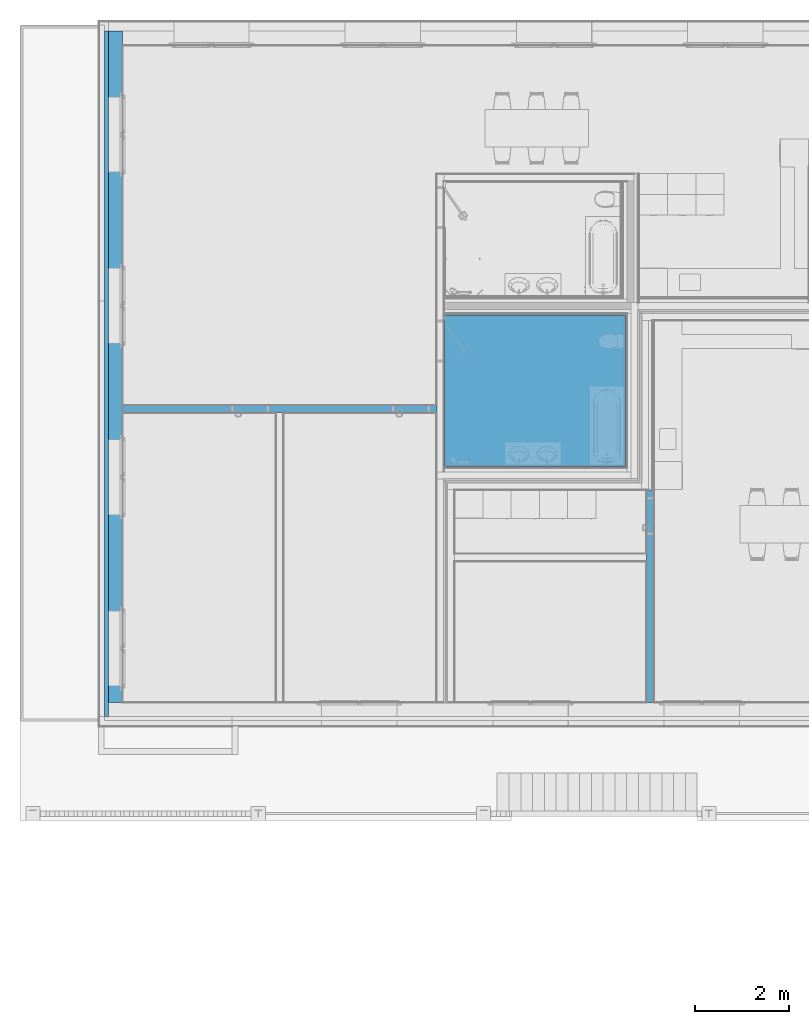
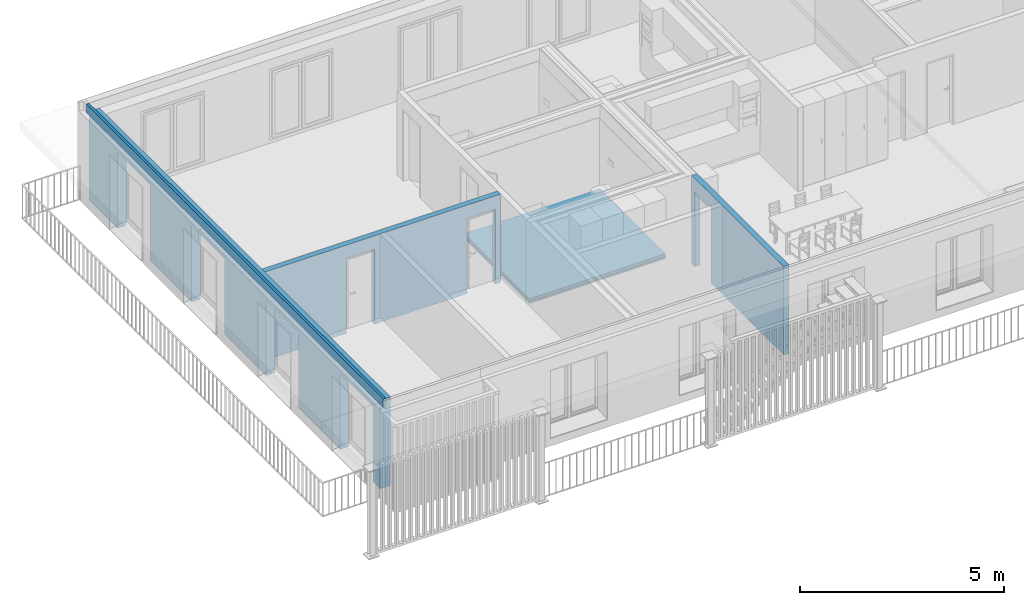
# One storey, part 7 of 34: 7 building element parts, 1 discrete accessory, 7 openings, 4 elements without a shape of their own.
"""IFC4 building model written with IfcOpenShell, lengths in millimetres."""

from ifc_helpers import new_model, entity, si_unit, converted_unit, derived_unit, direction, frame, origin_with_axes, place, context, subcontext, project, spatial, polygons, material, type_object, element, aggregate, save


model = new_model("IFC4")

# Units and contexts
model_context = context("Model", 3, precision=0.01, world=origin_with_axes(), true_north=direction((0.0, 1.0)))
body_context = subcontext(model_context, "Body", "Model", "MODEL_VIEW")
ifc_project = project(units=[si_unit("LENGTHUNIT", "METRE", prefix="MILLI"), si_unit("AREAUNIT", "SQUARE_METRE"), si_unit("VOLUMEUNIT", "CUBIC_METRE"), converted_unit("PLANEANGLEUNIT", "DEGREE", entity("IfcPlaneAngleMeasure", 0.0174532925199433), si_unit("PLANEANGLEUNIT", "RADIAN"), dimensions=[0, 0, 0, 0, 0, 0, 0]), converted_unit("TIMEUNIT", "Year", entity("IfcTimeMeasure", 31557600.0), si_unit("TIMEUNIT", "SECOND"), dimensions=[0, 0, 1, 0, 0, 0, 0]), si_unit("MASSUNIT", "GRAM", prefix="KILO"), si_unit("THERMODYNAMICTEMPERATUREUNIT", "DEGREE_CELSIUS"), si_unit("LUMINOUSINTENSITYUNIT", "LUMEN"), si_unit("ENERGYUNIT", "JOULE", prefix="MEGA"), derived_unit("THERMALCONDUCTANCEUNIT", [(si_unit("POWERUNIT", "WATT"), 1), (si_unit("LENGTHUNIT", "METRE"), -1), (si_unit("THERMODYNAMICTEMPERATUREUNIT", "KELVIN"), -1)]), derived_unit("SPECIFICHEATCAPACITYUNIT", [(si_unit("ENERGYUNIT", "JOULE"), 1), (si_unit("MASSUNIT", "GRAM", prefix="KILO"), -1), (si_unit("THERMODYNAMICTEMPERATUREUNIT", "KELVIN"), -1)]), derived_unit("MASSDENSITYUNIT", [(si_unit("MASSUNIT", "GRAM", prefix="KILO"), 1), (si_unit("VOLUMEUNIT", "CUBIC_METRE"), -1)])], contexts=[model_context])

# Site, building, storey
site_placement = place(None, origin_with_axes())
site = spatial("IfcSite", under=ifc_project, at=site_placement, Name="Gelände", CompositionType="ELEMENT")
building_placement = place(site_placement, origin_with_axes())
building = spatial("IfcBuilding", under=site, at=building_placement, Name="Gebäude", CompositionType="ELEMENT")
storey_placement = place(building_placement, frame((0.0, 0.0, 2900.0), z_axis=(0.0, 0.0, 1.0), x_axis=(1.0, 0.0, 0.0)))
storey = spatial("IfcBuildingStorey", under=building, at=storey_placement, Name="1.OG", CompositionType="ELEMENT", Elevation=2900.0)

# Discrete accessory
ifc_material_1 = material(Name="Bewehrung")
discrete_accessory_type = type_object("IfcDiscreteAccessoryType", Name="Bewehrung 80 x 250", PredefinedType="NOTDEFINED")
discrete_accessory_placement = place(storey_placement, frame((-6861.004181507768, 37737.5972813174, 2649.999948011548), z_axis=(0.0, 0.0, 1.0), x_axis=(-1.0, 0.0, 0.0)))
element("IfcDiscreteAccessory", 1, at=discrete_accessory_placement, inside=storey, type_object=discrete_accessory_type, material=ifc_material_1, Name="Unterzug-028", PredefinedType="NOTDEFINED", context=body_context, shape_type="Tessellation", body=[
    polygons([(0.0, 14580.00054054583, 0.0), (80.00000000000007, 14580.00054054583, 0.0), (80.00000000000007, 0.0, 0.0), (0.0, 0.0, 0.0), (0.0, 14580.00054054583, 250.0), (80.00000000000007, 14580.00054054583, 250.0), (80.00000000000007, 0.0, 250.0), (0.0, 0.0, 250.0)], [[[1, 2, 3, 4]], [[1, 5, 6, 2]], [[2, 6, 7, 3]], [[4, 3, 7, 8]], [[5, 1, 4, 8]], [[6, 5, 8, 7]]], closed=True),
])

# Wall, opening, building element part
wall_type_1 = type_object("IfcWallType", Name="Innenwand Typ 05 170", PredefinedType="NOTDEFINED")
wall_1_placement = place(storey_placement, frame((4740.995818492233, 27974.37338563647, 0.0), z_axis=(0.0, 0.0, 1.0), x_axis=(0.0, -1.0, 0.0)))
wall_1 = element("IfcWall", 2, at=wall_1_placement, inside=storey, type_object=wall_type_1, Name="Wand-014", PredefinedType="NOTDEFINED")
opening_1_placement = place(wall_1_placement, frame((550.0000000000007, 0.0, 149.9999999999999), z_axis=(0.0, 0.0, 1.0), x_axis=(1.0, 0.0, 0.0)))
element("IfcOpeningElement", 3, at=opening_1_placement, cuts=wall_1, Name="Tür-011", context=body_context, identifier="Reference", shape_type="Tessellation", body=[
    polygons([(-399.9999999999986, -171.0000000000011, 2100.0), (-399.9999999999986, -171.0000000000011, -149.9999999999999), (399.9999999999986, -171.0000000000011, -149.9999999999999), (399.9999999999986, -171.0000000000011, 2100.0), (-399.9999999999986, 1.000000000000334, 2100.0), (-399.9999999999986, 1.000000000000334, -149.9999999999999), (399.9999999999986, 1.000000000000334, -149.9999999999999), (399.9999999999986, 1.000000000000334, 2100.0)], [[[1, 2, 3, 4]], [[5, 6, 2, 1]], [[6, 7, 3, 2]], [[7, 8, 4, 3]], [[8, 5, 1, 4]], [[7, 6, 5, 8]]], closed=True),
])
ifc_material_2 = material(Name="MW, Backstein")
building_element_part_1_placement = place(wall_1_placement, origin_with_axes())
building_element_part_1 = element("IfcBuildingElementPart", 4, at=building_element_part_1_placement, material=ifc_material_2, Name="MW, Backstein", PredefinedType="NOTDEFINED", context=body_context, shape_type="Tessellation", body=[
    polygons([(949.9999999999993, -10.00000000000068, 149.9999999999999), (949.9999999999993, -9.999999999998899, 2250.0), (150.0000000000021, -9.999999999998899, 2250.0), (150.0000000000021, -9.999999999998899, 149.9999999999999), (150.0000000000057, -9.999999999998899, 0.0), (0.0, -9.999999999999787, 0.0), (0.0, -9.999999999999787, 2649.999948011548), (4516.776644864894, -9.999999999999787, 2649.999948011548), (4516.776644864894, -9.999999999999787, 0.0), (949.9999999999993, -10.00000000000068, 0.0), (949.9999999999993, -159.9999999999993, 149.9999999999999), (949.9999999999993, -160.0000000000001, 2250.0), (150.0000000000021, -160.0000000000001, 2250.0), (150.0000000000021, -159.9999999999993, 149.9999999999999), (150.0000000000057, -160.0000000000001, 0.0), (0.0, -160.0000000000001, 0.0), (0.0, -160.0000000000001, 2649.999948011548), (4516.776644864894, -159.9999999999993, 2649.999948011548), (4516.776644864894, -160.0000000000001, 0.0), (949.9999999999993, -160.000000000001, 0.0)], [[[1, 2, 3, 4, 5, 6, 7, 8, 9, 10]], [[2, 1, 11, 12]], [[3, 2, 12, 13]], [[4, 3, 13, 14]], [[4, 14, 15, 5]], [[15, 16, 6, 5]], [[17, 7, 6, 16]], [[8, 7, 17, 18]], [[18, 19, 9, 8]], [[10, 9, 19, 20]], [[11, 1, 10, 20]], [[12, 11, 20, 19, 18, 17, 16, 15, 14, 13]]], closed=True),
])
aggregate(wall_1, [building_element_part_1])

# Covering, building element parts
covering_type = type_object("IfcCoveringType", Name="Bodenaufbau Typ 02 150", PredefinedType="NOTDEFINED")
covering_placement = place(storey_placement, frame((282.9958184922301, 28479.37338563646, 0.0), z_axis=(0.0, 0.0, 1.0), x_axis=(1.0, 0.0, 0.0)))
covering = element("IfcCovering", 5, at=covering_placement, inside=storey, type_object=covering_type, Name="Decke-008", PredefinedType="NOTDEFINED")
ifc_material_3 = material(Name="Keramik")
building_element_part_2_placement = place(covering_placement, origin_with_axes())
building_element_part_2 = element("IfcBuildingElementPart", 6, at=building_element_part_2_placement, material=ifc_material_3, Name="Keramik", PredefinedType="NOTDEFINED", context=body_context, shape_type="Tessellation", body=[
    polygons([(3848.000000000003, 0.0, 134.9999999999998), (3848.000000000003, 0.0, 149.9999999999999), (0.0, 0.0, 149.9999999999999), (0.0, 0.0, 134.9999999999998), (3848.000000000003, 3218.223889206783, 134.9999999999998), (3848.000000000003, 3218.223889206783, 149.9999999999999), (0.0, 3218.223889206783, 149.9999999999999), (0.0, 3218.223889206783, 134.9999999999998)], [[[1, 2, 3, 4]], [[5, 6, 2, 1]], [[3, 2, 6, 7]], [[4, 3, 7, 8]], [[4, 8, 5, 1]], [[8, 7, 6, 5]]], closed=True),
])
ifc_material_4 = material(Name="Unterlagsboden")
building_element_part_3_placement = place(covering_placement, origin_with_axes())
building_element_part_3 = element("IfcBuildingElementPart", 7, at=building_element_part_3_placement, material=ifc_material_4, Name="Unterlagsboden", PredefinedType="NOTDEFINED", context=body_context, shape_type="Tessellation", body=[
    polygons([(3848.000000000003, 0.0, 79.99999999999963), (3848.000000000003, 0.0, 134.9999999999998), (0.0, 0.0, 134.9999999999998), (0.0, 0.0, 79.99999999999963), (3848.000000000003, 3218.223889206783, 79.99999999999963), (3848.000000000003, 3218.223889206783, 134.9999999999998), (0.0, 3218.223889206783, 134.9999999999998), (0.0, 3218.223889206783, 79.99999999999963)], [[[1, 2, 3, 4]], [[5, 6, 2, 1]], [[3, 2, 6, 7]], [[4, 3, 7, 8]], [[4, 8, 5, 1]], [[8, 7, 6, 5]]], closed=True),
])
ifc_material_5 = material(Name="Trittschalldämmung")
building_element_part_4_placement = place(covering_placement, origin_with_axes())
building_element_part_4 = element("IfcBuildingElementPart", 8, at=building_element_part_4_placement, material=ifc_material_5, Name="Trittschalldämmung", PredefinedType="NOTDEFINED", context=body_context, shape_type="Tessellation", body=[
    polygons([(3848.000000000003, 0.0, 50.00000000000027), (3848.000000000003, 0.0, 80.00000000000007), (0.0, 0.0, 80.00000000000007), (0.0, 0.0, 50.00000000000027), (3848.000000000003, 3218.223889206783, 50.00000000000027), (3848.000000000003, 3218.223889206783, 80.00000000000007), (0.0, 3218.223889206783, 80.00000000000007), (0.0, 3218.223889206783, 50.00000000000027)], [[[1, 2, 3, 4]], [[5, 6, 2, 1]], [[3, 2, 6, 7]], [[4, 3, 7, 8]], [[4, 8, 5, 1]], [[8, 7, 6, 5]]], closed=True),
])
ifc_material_6 = material(Name="Dämmung Innen")
building_element_part_5_placement = place(covering_placement, origin_with_axes())
building_element_part_5 = element("IfcBuildingElementPart", 9, at=building_element_part_5_placement, material=ifc_material_6, Name="Dämmung Innen", PredefinedType="NOTDEFINED", context=body_context, shape_type="Tessellation", body=[
    polygons([(0.0, 0.0, 0.0), (3848.000000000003, 0.0, 0.0), (3848.000000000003, 0.0, 49.99999999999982), (0.0, 0.0, 49.99999999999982), (0.0, 3218.223889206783, 0.0), (3848.000000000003, 3218.223889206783, 0.0), (3848.000000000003, 3218.223889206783, 49.99999999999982), (0.0, 3218.223889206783, 49.99999999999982)], [[[1, 2, 3, 4]], [[1, 5, 6, 2]], [[2, 6, 7, 3]], [[4, 3, 7, 8]], [[5, 1, 4, 8]], [[6, 5, 8, 7]]], closed=True),
])
aggregate(covering, [building_element_part_2, building_element_part_3, building_element_part_4, building_element_part_5])

# Wall, openings, building element part
wall_2_placement = place(storey_placement, frame((-6561.004181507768, 29785.08426010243, 0.0), z_axis=(0.0, 0.0, 1.0), x_axis=(1.0, 0.0, 0.0)))
wall_2 = element("IfcWall", 10, at=wall_2_placement, inside=storey, type_object=wall_type_1, Name="Wand-014", PredefinedType="NOTDEFINED")
opening_2_placement = place(wall_2_placement, frame((6133.999999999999, 0.0, 149.9999999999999), z_axis=(0.0, 0.0, 1.0), x_axis=(1.0, 0.0, 0.0)))
element("IfcOpeningElement", 11, at=opening_2_placement, cuts=wall_2, Name="Tür-011", context=body_context, identifier="Reference", shape_type="Tessellation", body=[
    polygons([(-400.0, -171.0000000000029, 2100.0), (-400.0, -171.0000000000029, -149.9999999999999), (400.0, -171.0000000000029, -149.9999999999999), (400.0, -171.0000000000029, 2100.0), (-400.0, 1.000000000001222, 2100.0), (-400.0, 1.000000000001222, -149.9999999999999), (400.0, 1.000000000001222, -149.9999999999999), (400.0, 1.000000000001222, 2100.0)], [[[1, 2, 3, 4]], [[5, 6, 2, 1]], [[6, 7, 3, 2]], [[7, 8, 4, 3]], [[8, 5, 1, 4]], [[7, 6, 5, 8]]], closed=True),
])
opening_3_placement = place(wall_2_placement, frame((2710.000000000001, 0.0, 149.9999999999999), z_axis=(0.0, 0.0, 1.0), x_axis=(1.0, 0.0, 0.0)))
element("IfcOpeningElement", 12, at=opening_3_placement, cuts=wall_2, Name="Tür-011", context=body_context, identifier="Reference", shape_type="Tessellation", body=[
    polygons([(-399.9999999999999, -171.0000000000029, 2100.0), (-399.9999999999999, -171.0000000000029, -149.9999999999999), (399.9999999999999, -171.0000000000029, -149.9999999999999), (399.9999999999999, -171.0000000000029, 2100.0), (-399.9999999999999, 1.000000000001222, 2100.0), (-399.9999999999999, 1.000000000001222, -149.9999999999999), (399.9999999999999, 1.000000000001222, -149.9999999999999), (399.9999999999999, 1.000000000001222, 2100.0)], [[[1, 2, 3, 4]], [[5, 6, 2, 1]], [[6, 7, 3, 2]], [[7, 8, 4, 3]], [[8, 5, 1, 4]], [[7, 6, 5, 8]]], closed=True),
])
building_element_part_6_placement = place(wall_2_placement, origin_with_axes())
building_element_part_6 = element("IfcBuildingElementPart", 13, at=building_element_part_6_placement, material=ifc_material_2, Name="MW, Backstein", PredefinedType="NOTDEFINED", context=body_context, shape_type="Tessellation", body=[
    polygons([(2310.000000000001, -9.99999999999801, 2250.0), (2310.000000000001, -9.99999999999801, 149.9999999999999), (2310.000000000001, -10.00000000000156, 0.0), (0.0, -10.00000000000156, 0.0), (0.0, -10.00000000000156, 2649.999948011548), (6683.999999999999, -9.99999999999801, 2649.999948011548), (6683.999999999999, -9.99999999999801, 0.0), (6533.999999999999, -9.99999999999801, 0.0), (6533.999999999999, -9.99999999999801, 149.9999999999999), (6533.999999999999, -9.99999999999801, 2250.0), (5734.0, -9.99999999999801, 2250.0), (5734.0, -9.99999999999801, 149.9999999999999), (5734.0, -9.99999999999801, 0.0), (3110.000000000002, -10.00000000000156, 0.0), (3110.000000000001, -9.99999999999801, 149.9999999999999), (3110.000000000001, -9.99999999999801, 2250.0), (2310.000000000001, -160.0000000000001, 2250.0), (2310.000000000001, -160.0000000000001, 149.9999999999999), (2310.000000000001, -160.0000000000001, 0.0), (0.0, -160.0000000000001, 0.0), (0.0, -160.0000000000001, 2649.999948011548), (6683.999999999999, -160.0000000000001, 2649.999948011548), (6683.999999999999, -160.0000000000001, 0.0), (6533.999999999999, -160.0000000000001, 0.0), (6533.999999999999, -160.0000000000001, 149.9999999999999), (6533.999999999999, -160.0000000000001, 2250.0), (5734.0, -160.0000000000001, 2250.0), (5734.0, -160.0000000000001, 149.9999999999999), (5734.0, -160.0000000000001, 0.0), (3110.000000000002, -160.0000000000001, 0.0), (3110.000000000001, -160.0000000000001, 149.9999999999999), (3110.000000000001, -160.0000000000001, 2250.0)], [[[1, 2, 3, 4, 5, 6, 7, 8, 9, 10, 11, 12, 13, 14, 15, 16]], [[2, 1, 17, 18]], [[2, 18, 19, 3]], [[20, 4, 3, 19]], [[5, 4, 20, 21]], [[5, 21, 22, 6]], [[23, 7, 6, 22]], [[7, 23, 24, 8]], [[9, 8, 24, 25]], [[9, 25, 26, 10]], [[10, 26, 27, 11]], [[11, 27, 28, 12]], [[28, 29, 13, 12]], [[30, 14, 13, 29]], [[31, 15, 14, 30]], [[16, 15, 31, 32]], [[1, 16, 32, 17]], [[32, 31, 30, 29, 28, 27, 26, 25, 24, 23, 22, 21, 20, 19, 18, 17]]], closed=True),
])
aggregate(wall_2, [building_element_part_6])

wall_type_2 = type_object("IfcWallType", Name="Aussenwand Typ 06 310", PredefinedType="NOTDEFINED")
wall_3_placement = place(storey_placement, frame((-6861.004181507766, 37737.5972813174, 0.0), z_axis=(0.0, 0.0, 1.0), x_axis=(0.0, -1.0, 0.0)))
wall_3 = element("IfcWall", 14, at=wall_3_placement, inside=storey, type_object=wall_type_2, Name="Wand-014", PredefinedType="NOTDEFINED")
opening_4_placement = place(wall_3_placement, frame((9485.999999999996, 0.0, 139.9999480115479), z_axis=(0.0, 0.0, 1.0), x_axis=(1.0, 0.0, 0.0)))
element("IfcOpeningElement", 15, at=opening_4_placement, cuts=wall_3, Name="Fenster-004", context=body_context, identifier="Reference", shape_type="Tessellation", body=[
    polygons([(-800.0000000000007, -1.000000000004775, 2132.0), (-800.0000000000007, 0.0, 2132.0), (800.0000000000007, 0.0, 2132.0), (800.0000000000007, -1.000000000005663, 2132.0), (801.9999999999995, -1.000000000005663, 2132.0), (801.9999999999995, 250.0000000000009, 2132.0), (-801.9999999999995, 250.0000000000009, 2132.0), (-801.9999999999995, -1.000000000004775, 2132.0), (-800.0000000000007, -1.000000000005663, 2130.0), (-800.0000000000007, -149.9999999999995, 2130.0), (-800.0000000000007, -149.9999999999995, 2420.0), (-800.0000000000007, 0.0, 2420.0), (800.0000000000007, 0.0, 2420.0), (800.0000000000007, -149.9999999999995, 2420.0), (800.0000000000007, -149.9999999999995, 2130.0), (800.0000000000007, -1.000000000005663, 2130.0), (-801.9999999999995, -1.000000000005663, -140.0000000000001), (801.9999999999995, -1.000000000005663, -140.0000000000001), (801.9999999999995, 250.0000000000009, -140.0000000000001), (-801.9999999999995, 250.0000000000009, -140.0000000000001), (902.000000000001, 250.0000000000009, -140.0000000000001), (902.000000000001, 250.0000000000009, 2232.0), (-902.000000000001, 250.0000000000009, 2232.0), (-902.000000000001, 250.0000000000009, -140.0000000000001), (-902.000000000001, 311.0000000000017, -140.0000000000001), (902.000000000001, 311.0000000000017, -140.0000000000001), (902.000000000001, 311.0000000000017, 2232.0), (-902.000000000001, 311.0000000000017, 2232.0)], [[[1, 2, 3, 4, 5, 6, 7, 8]], [[2, 1, 9, 10, 11, 12]], [[3, 2, 12, 13]], [[4, 3, 13, 14, 15, 16]], [[9, 1, 8, 17, 18, 5, 4, 16]], [[19, 6, 5, 18]], [[20, 7, 6, 19, 21, 22, 23, 24]], [[7, 20, 17, 8]], [[9, 16, 15, 10]], [[11, 10, 15, 14]], [[12, 11, 14, 13]], [[20, 19, 18, 17]], [[19, 20, 24, 25, 26, 21]], [[22, 21, 26, 27]], [[23, 22, 27, 28]], [[24, 23, 28, 25]], [[27, 26, 25, 28]]], closed=True),
])
opening_5_placement = place(wall_3_placement, frame((5843.999999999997, 0.0, 139.9999480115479), z_axis=(0.0, 0.0, 1.0), x_axis=(1.0, 0.0, 0.0)))
element("IfcOpeningElement", 16, at=opening_5_placement, cuts=wall_3, Name="Fenster-004", context=body_context, identifier="Reference", shape_type="Tessellation", body=[
    polygons([(-800.0000000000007, -1.000000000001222, 2132.0), (-800.0000000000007, 0.0, 2132.0), (800.0000000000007, 0.0, 2132.0), (800.0000000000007, -1.000000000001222, 2132.0), (801.9999999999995, -1.000000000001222, 2132.0), (801.9999999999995, 250.0000000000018, 2132.0), (-802.0000000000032, 250.0000000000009, 2132.0), (-802.0000000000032, -1.000000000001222, 2132.0), (-800.0000000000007, -1.000000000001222, 2130.0), (-800.0000000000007, -149.9999999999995, 2130.0), (-800.0000000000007, -149.9999999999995, 2420.0), (-800.0000000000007, 0.0, 2420.0), (800.0000000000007, 0.0, 2420.0), (800.0000000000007, -149.9999999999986, 2420.0), (800.0000000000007, -149.9999999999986, 2130.0), (800.0000000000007, -1.000000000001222, 2130.0), (-802.0000000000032, -1.00000000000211, -140.0000000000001), (801.9999999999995, -1.000000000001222, -140.0000000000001), (801.9999999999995, 250.0000000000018, -140.0000000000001), (-802.0000000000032, 250.0000000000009, -140.0000000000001), (902.000000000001, 250.0000000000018, -140.0000000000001), (902.000000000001, 250.0000000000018, 2232.0), (-901.9999999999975, 250.0000000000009, 2232.0), (-901.9999999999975, 250.0000000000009, -140.0000000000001), (-901.9999999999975, 311.0000000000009, -140.0000000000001), (902.000000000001, 311.0000000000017, -140.0000000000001), (902.000000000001, 311.0000000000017, 2232.0), (-901.9999999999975, 311.0000000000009, 2232.0)], [[[1, 2, 3, 4, 5, 6, 7, 8]], [[2, 1, 9, 10, 11, 12]], [[3, 2, 12, 13]], [[4, 3, 13, 14, 15, 16]], [[9, 1, 8, 17, 18, 5, 4, 16]], [[19, 6, 5, 18]], [[20, 7, 6, 19, 21, 22, 23, 24]], [[7, 20, 17, 8]], [[9, 16, 15, 10]], [[11, 10, 15, 14]], [[12, 11, 14, 13]], [[20, 19, 18, 17]], [[19, 20, 24, 25, 26, 21]], [[22, 21, 26, 27]], [[23, 22, 27, 28]], [[24, 23, 28, 25]], [[27, 26, 25, 28]]], closed=True),
])
opening_6_placement = place(wall_3_placement, frame((13128.0, 0.0, 139.9999480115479), z_axis=(0.0, 0.0, 1.0), x_axis=(1.0, 0.0, 0.0)))
element("IfcOpeningElement", 17, at=opening_6_placement, cuts=wall_3, Name="Fenster-004", context=body_context, identifier="Reference", shape_type="Tessellation", body=[
    polygons([(-800.0000000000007, -0.9999999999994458, 2132.0), (-800.0000000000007, 0.0, 2132.0), (800.0000000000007, 0.0, 2132.0), (800.0000000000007, -1.000000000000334, 2132.0), (801.9999999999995, -1.000000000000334, 2132.0), (801.9999999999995, 250.0000000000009, 2132.0), (-801.9999999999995, 250.0000000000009, 2132.0), (-801.9999999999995, -0.9999999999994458, 2132.0), (-800.0000000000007, -0.9999999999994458, 2130.0), (-800.0000000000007, -149.9999999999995, 2130.0), (-800.0000000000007, -149.9999999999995, 2420.0), (-800.0000000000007, 0.0, 2420.0), (800.0000000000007, 0.0, 2420.0), (800.0000000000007, -149.9999999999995, 2420.0), (800.0000000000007, -149.9999999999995, 2130.0), (800.0000000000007, -1.000000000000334, 2130.0), (-801.9999999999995, -1.000000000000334, -140.0000000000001), (801.9999999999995, -1.000000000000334, -140.0000000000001), (801.9999999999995, 250.0000000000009, -140.0000000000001), (-801.9999999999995, 250.0000000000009, -140.0000000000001), (902.000000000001, 250.0000000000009, -140.0000000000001), (902.000000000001, 250.0000000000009, 2232.0), (-902.000000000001, 250.0000000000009, 2232.0), (-902.000000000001, 250.0000000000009, -140.0000000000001), (-902.000000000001, 311.0000000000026, -140.0000000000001), (902.000000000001, 311.0000000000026, -140.0000000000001), (902.000000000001, 311.0000000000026, 2232.0), (-902.000000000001, 311.0000000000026, 2232.0)], [[[1, 2, 3, 4, 5, 6, 7, 8]], [[2, 1, 9, 10, 11, 12]], [[3, 2, 12, 13]], [[4, 3, 13, 14, 15, 16]], [[9, 1, 8, 17, 18, 5, 4, 16]], [[19, 6, 5, 18]], [[20, 7, 6, 19, 21, 22, 23, 24]], [[7, 20, 17, 8]], [[9, 16, 15, 10]], [[11, 10, 15, 14]], [[12, 11, 14, 13]], [[20, 19, 18, 17]], [[19, 20, 24, 25, 26, 21]], [[22, 21, 26, 27]], [[23, 22, 27, 28]], [[24, 23, 28, 25]], [[27, 26, 25, 28]]], closed=True),
])
opening_7_placement = place(wall_3_placement, frame((2202.000000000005, 0.0, 139.9999480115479), z_axis=(0.0, 0.0, 1.0), x_axis=(1.0, 0.0, 0.0)))
element("IfcOpeningElement", 18, at=opening_7_placement, cuts=wall_3, Name="Fenster-004", context=body_context, identifier="Reference", shape_type="Tessellation", body=[
    polygons([(-800.0000000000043, -1.000000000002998, 2132.0), (-800.0000000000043, 0.0, 2132.0), (799.9999999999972, 0.0, 2132.0), (799.9999999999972, -1.000000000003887, 2132.0), (801.9999999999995, -1.000000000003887, 2132.0), (801.9999999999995, 250.0000000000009, 2132.0), (-801.9999999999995, 250.0000000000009, 2132.0), (-801.9999999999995, -1.000000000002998, 2132.0), (-800.0000000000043, -1.000000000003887, 2130.0), (-800.0000000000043, -149.9999999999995, 2130.0), (-800.0000000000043, -149.9999999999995, 2420.0), (-800.0000000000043, 0.0, 2420.0), (799.9999999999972, 0.0, 2420.0), (799.9999999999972, -149.9999999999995, 2420.0), (799.9999999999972, -149.9999999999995, 2130.0), (799.9999999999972, -1.000000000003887, 2130.0), (-801.9999999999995, -1.000000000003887, -140.0000000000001), (801.9999999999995, -1.000000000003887, -140.0000000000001), (801.9999999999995, 250.0000000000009, -140.0000000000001), (-801.9999999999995, 250.0000000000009, -140.0000000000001), (902.000000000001, 250.0000000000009, -140.0000000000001), (902.000000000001, 250.0000000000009, 2232.0), (-902.000000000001, 250.0000000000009, 2232.0), (-902.000000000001, 250.0000000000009, -140.0000000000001), (-902.000000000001, 310.9999999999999, -140.0000000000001), (902.000000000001, 310.9999999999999, -140.0000000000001), (902.000000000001, 310.9999999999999, 2232.0), (-902.000000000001, 310.9999999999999, 2232.0)], [[[1, 2, 3, 4, 5, 6, 7, 8]], [[2, 1, 9, 10, 11, 12]], [[3, 2, 12, 13]], [[4, 3, 13, 14, 15, 16]], [[9, 1, 8, 17, 18, 5, 4, 16]], [[19, 6, 5, 18]], [[20, 7, 6, 19, 21, 22, 23, 24]], [[7, 20, 17, 8]], [[9, 16, 15, 10]], [[11, 10, 15, 14]], [[12, 11, 14, 13]], [[20, 19, 18, 17]], [[19, 20, 24, 25, 26, 21]], [[22, 21, 26, 27]], [[23, 22, 27, 28]], [[24, 23, 28, 25]], [[27, 26, 25, 28]]], closed=True),
])
ifc_material_7 = material(Name="Beton bewehrt")
building_element_part_7_placement = place(wall_3_placement, origin_with_axes())
building_element_part_7 = element("IfcBuildingElementPart", 19, at=building_element_part_7_placement, material=ifc_material_7, Name="Beton bewehrt", PredefinedType="NOTDEFINED", context=body_context, shape_type="Tessellation", body=[
    polygons([(3104.000000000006, 299.9999999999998, -5.198845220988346e-05), (3104.000000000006, 300.0000000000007, 2371.999948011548), (1300.000000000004, 300.0000000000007, 2371.999948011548), (1300.000000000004, 300.0000000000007, -5.198845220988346e-05), (0.0, 299.9999999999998, 0.0), (0.0, 299.9999999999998, 2649.999999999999), (14280.00054054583, 300.0000000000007, 2649.999999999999), (14280.00054054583, 300.0000000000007, 0.0), (14030.0, 300.0000000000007, -5.198845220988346e-05), (14030.0, 300.0000000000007, 2371.999948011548), (12226.0, 300.0000000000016, 2371.999948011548), (12226.0, 300.0000000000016, -5.198845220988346e-05), (10388.0, 300.0000000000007, -5.198845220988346e-05), (10388.0, 300.0000000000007, 2371.999948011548), (8583.999999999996, 300.0000000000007, 2371.999948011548), (8583.999999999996, 300.0000000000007, -5.198845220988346e-05), (6745.999999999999, 300.0000000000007, -5.198845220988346e-05), (6745.999999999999, 300.0000000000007, 2371.999948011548), (4942.0, 299.9999999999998, 2371.999948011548), (4942.0, 299.9999999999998, -5.198845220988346e-05), (3104.000000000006, 250.0000000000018, -5.198845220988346e-05), (3104.000000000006, 250.0000000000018, 2371.999948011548), (1300.000000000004, 250.0000000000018, 2371.999948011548), (1300.000000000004, 250.0000000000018, -5.198845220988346e-05), (1400.000000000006, 250.0000000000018, -5.198845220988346e-05), (1400.000000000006, 0.0, -5.198845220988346e-05), (0.0, 0.0, 0.0), (0.0, 0.0, 2649.999999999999), (14280.00054054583, 0.0, 2649.999999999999), (14280.00054054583, 0.0, 0.0), (14030.0, 250.0000000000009, -5.198845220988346e-05), (13930.0, 0.0, -5.198845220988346e-05), (13930.0, 250.0000000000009, -5.198845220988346e-05), (14030.0, 250.0000000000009, 2371.999948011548), (12226.0, 250.0000000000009, 2371.999948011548), (12226.0, 250.0000000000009, -5.198845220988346e-05), (12326.0, 0.0, -5.198845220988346e-05), (10288.0, 0.0, -5.198845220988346e-05), (10288.0, 250.0000000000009, -5.198845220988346e-05), (10388.0, 250.0000000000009, -5.198845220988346e-05), (12326.0, 250.0000000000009, -5.198845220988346e-05), (10388.0, 250.0000000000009, 2371.999948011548), (8583.999999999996, 250.0000000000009, 2371.999948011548), (8583.999999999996, 250.0000000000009, -5.198845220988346e-05), (8683.999999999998, 250.0000000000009, -5.198845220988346e-05), (8683.999999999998, 0.0, -5.198845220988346e-05), (6645.999999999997, 0.0, -5.198845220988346e-05), (6645.999999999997, 250.0000000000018, -5.198845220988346e-05), (6745.999999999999, 250.0000000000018, -5.198845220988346e-05), (6745.999999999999, 250.0000000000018, 2371.999948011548), (4942.0, 250.0000000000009, 2371.999948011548), (4942.0, 250.0000000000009, -5.198845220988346e-05), (5041.999999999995, 250.0000000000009, -5.198845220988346e-05), (5041.999999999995, 0.0, -5.198845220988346e-05), (3004.000000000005, 0.0, -5.198845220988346e-05), (3004.000000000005, 250.0000000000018, -5.198845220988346e-05), (3004.000000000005, 250.0000000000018, 2271.999948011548), (1400.000000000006, 250.0000000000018, 2271.999948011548), (1400.000000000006, 0.0, 2271.999948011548), (3004.000000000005, 0.0, 2271.999948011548), (5041.999999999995, 0.0, 2271.999948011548), (6645.999999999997, 0.0, 2271.999948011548), (8683.999999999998, 0.0, 2271.999948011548), (10288.0, 0.0, 2271.999948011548), (12326.0, 0.0, 2271.999948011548), (13930.0, 0.0, 2271.999948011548), (13930.0, 250.0000000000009, 2271.999948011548), (12326.0, 250.0000000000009, 2271.999948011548), (10288.0, 250.0000000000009, 2271.999948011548), (8683.999999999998, 250.0000000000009, 2271.999948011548), (6645.999999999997, 250.0000000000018, 2271.999948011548), (5041.999999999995, 250.0000000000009, 2271.999948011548)], [[[1, 2, 3, 4, 5, 6, 7, 8, 9, 10, 11, 12, 13, 14, 15, 16, 17, 18, 19, 20]], [[2, 1, 21, 22]], [[3, 2, 22, 23]], [[4, 3, 23, 24]], [[24, 25, 26, 27, 5, 4]], [[6, 5, 27, 28]], [[29, 7, 6, 28]], [[30, 8, 7, 29]], [[31, 9, 8, 30, 32, 33]], [[31, 34, 10, 9]], [[34, 35, 11, 10]], [[35, 36, 12, 11]], [[37, 38, 39, 40, 13, 12, 36, 41]], [[40, 42, 14, 13]], [[42, 43, 15, 14]], [[43, 44, 16, 15]], [[45, 46, 47, 48, 49, 17, 16, 44]], [[18, 17, 49, 50]], [[19, 18, 50, 51]], [[20, 19, 51, 52]], [[21, 1, 20, 52, 53, 54, 55, 56]], [[25, 24, 23, 22, 21, 56, 57, 58]], [[25, 58, 59, 26]], [[27, 26, 59, 60, 55, 54, 61, 62, 47, 46, 63, 64, 38, 37, 65, 66, 32, 30, 29, 28]], [[32, 66, 67, 33]], [[35, 34, 31, 33, 67, 68, 41, 36]], [[38, 64, 69, 39]], [[69, 70, 45, 44, 43, 42, 40, 39]], [[65, 37, 41, 68]], [[63, 46, 45, 70]], [[71, 48, 47, 62]], [[49, 48, 71, 72, 53, 52, 51, 50]], [[53, 72, 61, 54]], [[57, 56, 55, 60]], [[58, 57, 60, 59]], [[72, 71, 62, 61]], [[64, 63, 70, 69]], [[66, 65, 68, 67]]], closed=True),
])
aggregate(wall_3, [building_element_part_7])

save(model, "model.ifc")
